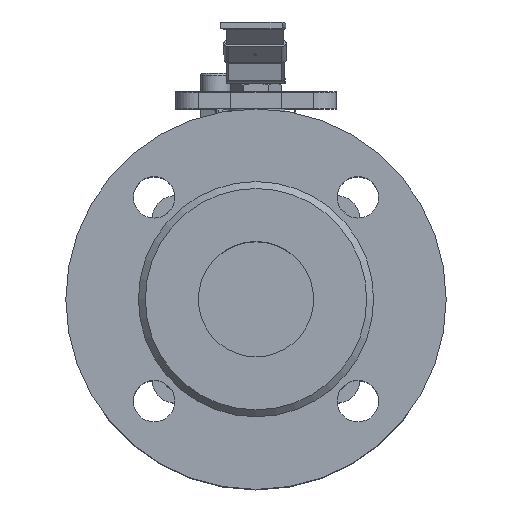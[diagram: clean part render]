
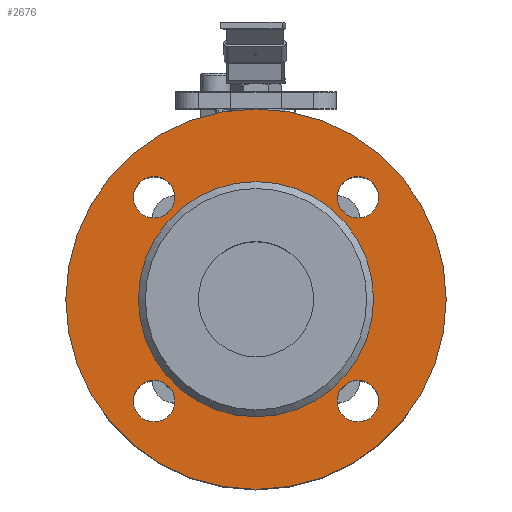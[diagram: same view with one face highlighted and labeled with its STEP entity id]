
A CAD part, top view. The second image highlights one B-rep face of the part: STEP entity #2676.
In plain terms, the highlighted planar face has unit normal (0, 0, 1).
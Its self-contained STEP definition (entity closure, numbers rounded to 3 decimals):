
#2676=ADVANCED_FACE('',(#7990,#7992,#7994,#7996,#7998,#8000),#8002,.F.);
#7990=FACE_BOUND('',#7991,.T.);
#7991=EDGE_LOOP('',(#12946));
#7992=FACE_BOUND('',#7993,.T.);
#7993=EDGE_LOOP('',(#12947));
#7994=FACE_BOUND('',#7995,.T.);
#7995=EDGE_LOOP('',(#12948));
#7996=FACE_BOUND('',#7997,.T.);
#7997=EDGE_LOOP('',(#12949));
#7998=FACE_BOUND('',#7999,.T.);
#7999=EDGE_LOOP('',(#12950));
#8000=FACE_BOUND('',#8001,.T.);
#8001=EDGE_LOOP('',(#12951));
#8002=PLANE('',#8003);
#8003=AXIS2_PLACEMENT_3D('',#8004,#8005,#8006);
#8004=CARTESIAN_POINT('',(0.,0.,60.443));
#8005=DIRECTION('',(0.,0.,-1.));
#8006=DIRECTION('',(0.,1.,0.));
#12946=ORIENTED_EDGE('',*,*,#15142,.F.);
#12947=ORIENTED_EDGE('',*,*,#15143,.T.);
#12948=ORIENTED_EDGE('',*,*,#15144,.T.);
#12949=ORIENTED_EDGE('',*,*,#15145,.T.);
#12950=ORIENTED_EDGE('',*,*,#15307,.T.);
#12951=ORIENTED_EDGE('',*,*,#15163,.T.);
#15142=EDGE_CURVE('',#17493,#17493,#17494,.T.);
#15143=EDGE_CURVE('',#17495,#17495,#17496,.F.);
#15144=EDGE_CURVE('',#17497,#17497,#17498,.F.);
#15145=EDGE_CURVE('',#17499,#17499,#17500,.F.);
#15163=EDGE_CURVE('',#17526,#17526,#17527,.F.);
#15307=EDGE_CURVE('',#17757,#17757,#17758,.T.);
#17493=VERTEX_POINT('',#27103);
#17494=CIRCLE('',#27104,82.5);
#17495=VERTEX_POINT('',#27108);
#17496=CIRCLE('',#27109,9.);
#17497=VERTEX_POINT('',#27113);
#17498=CIRCLE('',#27114,9.);
#17499=VERTEX_POINT('',#27118);
#17500=CIRCLE('',#27119,9.);
#17526=VERTEX_POINT('',#27318);
#17527=CIRCLE('',#27319,9.);
#17757=VERTEX_POINT('',#28917);
#17758=CIRCLE('',#28918,51.);
#27103=CARTESIAN_POINT('',(0.,-82.5,60.443));
#27104=AXIS2_PLACEMENT_3D('',#27105,#27106,#27107);
#27105=CARTESIAN_POINT('',(0.,0.,60.443));
#27106=DIRECTION('',(0.,0.,-1.));
#27107=DIRECTION('',(0.,-1.,0.));
#27108=CARTESIAN_POINT('',(44.194,-53.194,60.443));
#27109=AXIS2_PLACEMENT_3D('',#27110,#27111,#27112);
#27110=CARTESIAN_POINT('',(44.194,-44.194,60.443));
#27111=DIRECTION('',(0.,0.,1.));
#27112=DIRECTION('',(0.,-1.,0.));
#27113=CARTESIAN_POINT('',(-53.194,-44.194,60.443));
#27114=AXIS2_PLACEMENT_3D('',#27115,#27116,#27117);
#27115=CARTESIAN_POINT('',(-44.194,-44.194,60.443));
#27116=DIRECTION('',(0.,0.,1.));
#27117=DIRECTION('',(-1.,0.,0.));
#27118=CARTESIAN_POINT('',(-44.194,53.194,60.443));
#27119=AXIS2_PLACEMENT_3D('',#27120,#27121,#27122);
#27120=CARTESIAN_POINT('',(-44.194,44.194,60.443));
#27121=DIRECTION('',(0.,0.,1.));
#27122=DIRECTION('',(0.,1.,0.));
#27318=CARTESIAN_POINT('',(53.194,44.194,60.443));
#27319=AXIS2_PLACEMENT_3D('',#27320,#27321,#27322);
#27320=CARTESIAN_POINT('',(44.194,44.194,60.443));
#27321=DIRECTION('',(0.,0.,1.));
#27322=DIRECTION('',(1.,0.,0.));
#28917=CARTESIAN_POINT('',(0.,51.,60.443));
#28918=AXIS2_PLACEMENT_3D('',#28919,#28920,#28921);
#28919=CARTESIAN_POINT('',(0.,0.,60.443));
#28920=DIRECTION('',(0.,0.,-1.));
#28921=DIRECTION('',(0.,1.,0.));
